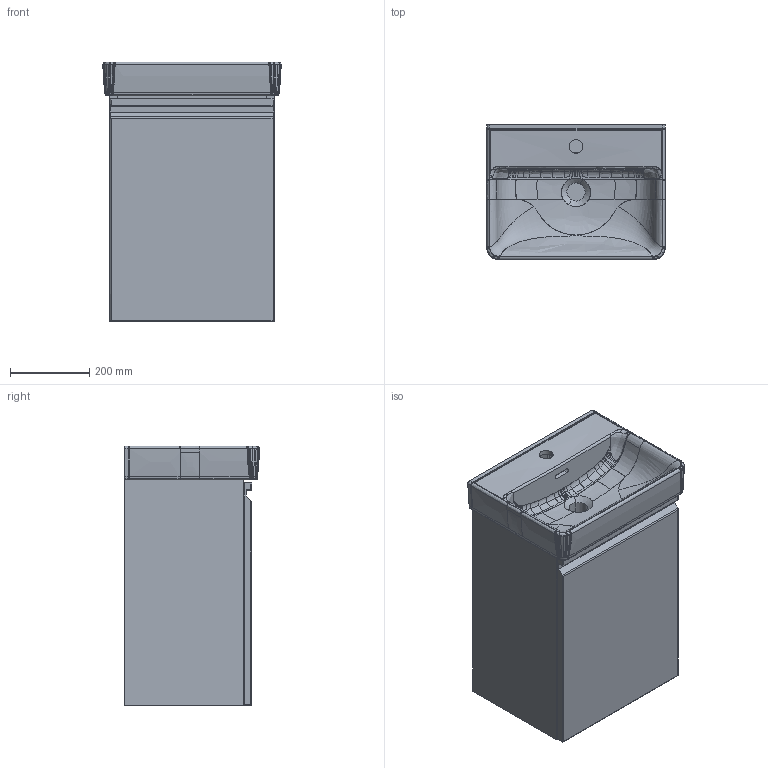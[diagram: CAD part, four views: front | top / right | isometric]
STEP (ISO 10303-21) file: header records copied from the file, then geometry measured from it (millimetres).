
FILE_DESCRIPTION(/* description */ (''),/* implementation_level */ '2;1');
FILE_NAME(/* name */ 'C:\Users\User33\Desktop\Pro S\3D01_483302.stp',/* time_stamp */ '2018-05-10T11:31:26+02:00',/* author */ ('User33'),/* organization */ (''),/* preprocessor_version */ 'ST-DEVELOPER v16.13',/* originating_system */ 'Autodesk Inventor 2018',/* authorisation */ '');
FILE_SCHEMA (('AUTOMOTIVE_DESIGN { 1 0 10303 214 3 1 1 }'));
Products named in the file (9): Assieme1; Parte1; Parte3; Parte5; Parte7; Parte9; Parte11; Parte25; Parte27
Assembly tree (8 placements, depth 2):
  Assieme1
    Parte1
    Parte3
    Parte5
    Parte7
    Parte9
    Parte11
    Parte25
    Parte27
Bounding box: 449.93 x 340.48 x 656 mm (x, y, z)
Volume: 13972446.5 mm3; surface area: 2398543.2 mm2
Topology: 7 solids, 782 shells, 853 faces, 4357 edges, 4287 vertices
Faces by surface type: bspline 693, plane 98, cylinder 38, cone 15, sphere 6, torus 3
Entity records: 230985 total; most frequent: CARTESIAN_POINT 203491, ORIENTED_EDGE 4519, EDGE_CURVE 4347, VERTEX_POINT 4283, DIRECTION 2681, B_SPLINE_CURVE_WITH_KNOTS 2675, AXIS2_PLACEMENT_3D 1089, EDGE_LOOP 861
